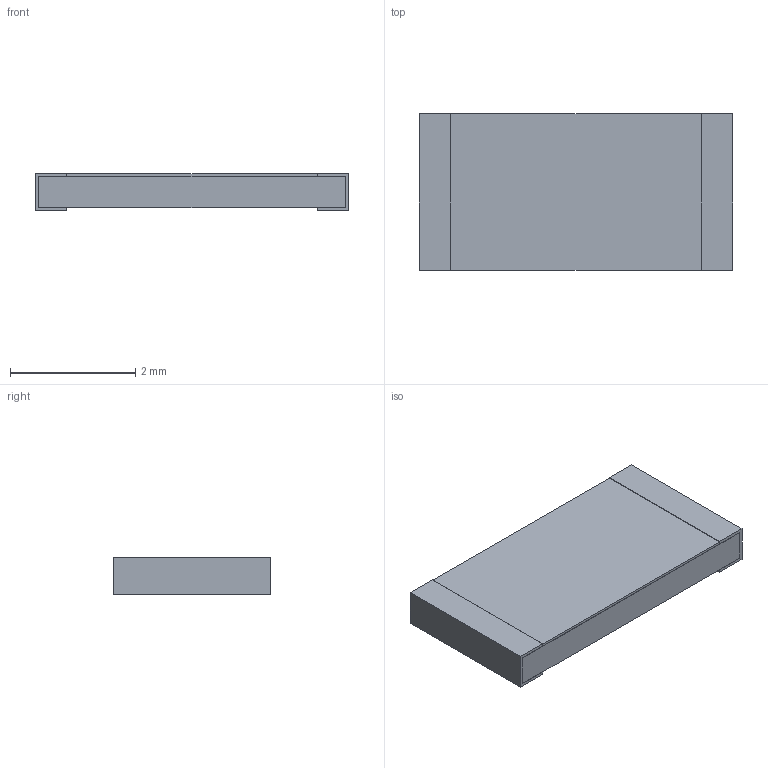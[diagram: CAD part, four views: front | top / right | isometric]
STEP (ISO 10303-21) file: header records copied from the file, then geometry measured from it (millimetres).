
FILE_DESCRIPTION(('STEP AP203'), '1');
FILE_NAME('Ð1-153 2010', '', ('UNSPECIFIED'), ('UNSPECIFIED'), 'ASCON STEP Converter 1.6', 'ASCON Math Kernel', '');
FILE_SCHEMA(('CONFIG_CONTROL_DESIGN'));
Length unit declared in the file: millimetre
Bounding box: 5 x 2.5 x 0.6 mm (x, y, z)
Volume: 6.9 mm3; surface area: 68.2 mm2
Topology: 4 solids, 4 shells, 32 faces, 72 edges, 48 vertices
Faces by surface type: plane 32
Entity records: 1194 total; most frequent: CARTESIAN_POINT 153, ORIENTED_EDGE 144, DIRECTION 138, EDGE_CURVE 72, LINE 72, VECTOR 72, VERTEX_POINT 48, COLOUR_RGB 36
